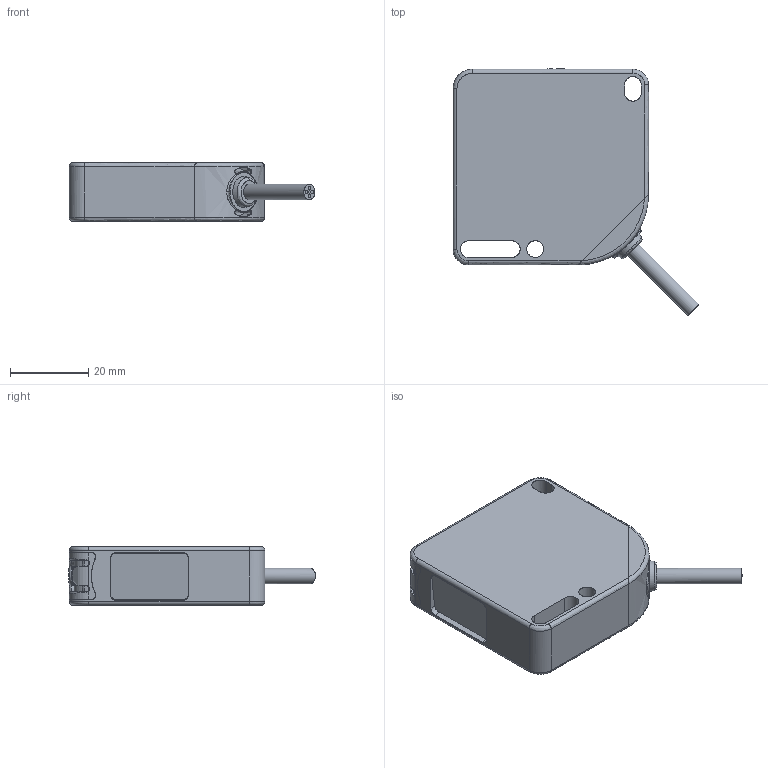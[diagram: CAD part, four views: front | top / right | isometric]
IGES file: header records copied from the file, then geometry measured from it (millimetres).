
Global section: file name: D:\Studi\DSD-0181.igs; preprocessor: I-DEAS 3D IGES Translator 11; date: 20080901.121205; units: millimetre
Bounding box: 62.89 x 63.15 x 15 mm (x, y, z)
Volume: 387.6 mm3; surface area: 11455.9 mm2
Topology: 1 solids, 1 shells, 225 faces, 1096 edges, 1010 vertices
Faces by surface type: bspline 225
